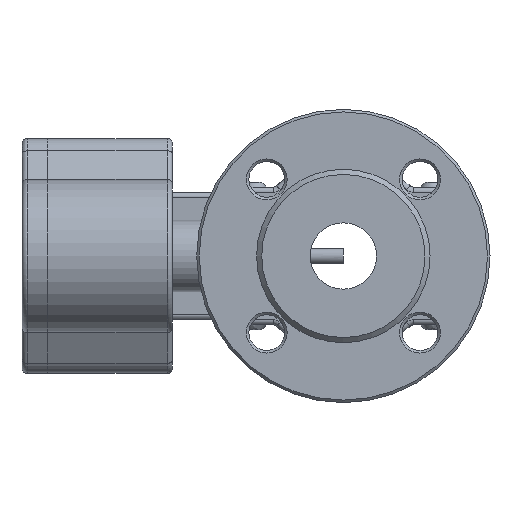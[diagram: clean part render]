
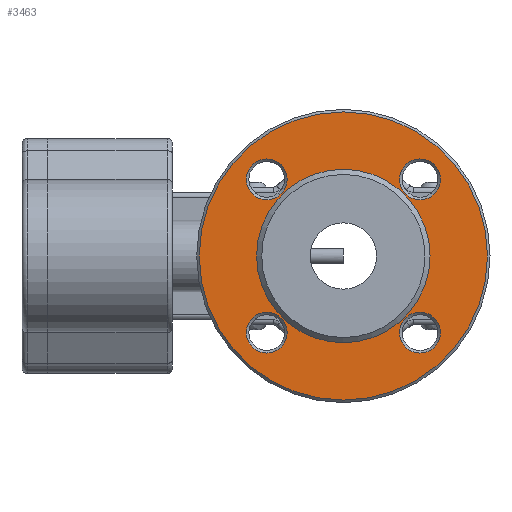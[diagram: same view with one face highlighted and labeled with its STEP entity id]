
A CAD part, left-side view. The second image highlights one B-rep face of the part: STEP entity #3463.
In plain terms, the highlighted planar face has unit normal (-1, 0, 0).
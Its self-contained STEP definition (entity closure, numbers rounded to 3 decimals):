
#3463=ADVANCED_FACE('',(#7015,#7017,#7019,#7021,#7023,#7025),#7027,.T.);
#7015=FACE_BOUND('',#7016,.T.);
#7016=EDGE_LOOP('',(#11565));
#7017=FACE_BOUND('',#7018,.T.);
#7018=EDGE_LOOP('',(#11566));
#7019=FACE_BOUND('',#7020,.T.);
#7020=EDGE_LOOP('',(#11567));
#7021=FACE_BOUND('',#7022,.T.);
#7022=EDGE_LOOP('',(#11568));
#7023=FACE_BOUND('',#7024,.T.);
#7024=EDGE_LOOP('',(#11569));
#7025=FACE_BOUND('',#7026,.T.);
#7026=EDGE_LOOP('',(#11570));
#7027=PLANE('',#7028);
#7028=AXIS2_PLACEMENT_3D('',#7029,#7030,#7031);
#7029=CARTESIAN_POINT('',(-98.,0.,0.));
#7030=DIRECTION('',(-1.,-0.,-0.));
#7031=DIRECTION('',(0.,1.,0.));
#11565=ORIENTED_EDGE('',*,*,#12960,.F.);
#11566=ORIENTED_EDGE('',*,*,#12961,.T.);
#11567=ORIENTED_EDGE('',*,*,#12962,.T.);
#11568=ORIENTED_EDGE('',*,*,#12886,.T.);
#11569=ORIENTED_EDGE('',*,*,#12963,.T.);
#11570=ORIENTED_EDGE('',*,*,#12964,.T.);
#12886=EDGE_CURVE('',#14749,#14749,#14750,.T.);
#12960=EDGE_CURVE('',#14873,#14873,#14874,.T.);
#12961=EDGE_CURVE('',#14875,#14875,#14876,.F.);
#12962=EDGE_CURVE('',#14877,#14877,#14878,.F.);
#12963=EDGE_CURVE('',#14879,#14879,#14880,.F.);
#12964=EDGE_CURVE('',#14881,#14881,#14882,.F.);
#14749=VERTEX_POINT('',#20098);
#14750=CIRCLE('',#20099,34.);
#14873=VERTEX_POINT('',#20420);
#14874=CIRCLE('',#20421,56.5);
#14875=VERTEX_POINT('',#20425);
#14876=CIRCLE('',#20426,8.);
#14877=VERTEX_POINT('',#20430);
#14878=CIRCLE('',#20431,8.);
#14879=VERTEX_POINT('',#20435);
#14880=CIRCLE('',#20436,8.);
#14881=VERTEX_POINT('',#20440);
#14882=CIRCLE('',#20441,8.);
#20098=CARTESIAN_POINT('',(-98.,34.,0.));
#20099=AXIS2_PLACEMENT_3D('',#20100,#20101,#20102);
#20100=CARTESIAN_POINT('',(-98.,0.,0.));
#20101=DIRECTION('',(1.,0.,0.));
#20102=DIRECTION('',(0.,1.,0.));
#20420=CARTESIAN_POINT('',(-98.,56.5,0.));
#20421=AXIS2_PLACEMENT_3D('',#20422,#20423,#20424);
#20422=CARTESIAN_POINT('',(-98.,0.,0.));
#20423=DIRECTION('',(1.,0.,0.));
#20424=DIRECTION('',(0.,1.,0.));
#20425=CARTESIAN_POINT('',(-98.,-30.052,22.052));
#20426=AXIS2_PLACEMENT_3D('',#20427,#20428,#20429);
#20427=CARTESIAN_POINT('',(-98.,-30.052,30.052));
#20428=DIRECTION('',(-1.,-0.,-0.));
#20429=DIRECTION('',(0.,0.,-1.));
#20430=CARTESIAN_POINT('',(-98.,30.052,-38.052));
#20431=AXIS2_PLACEMENT_3D('',#20432,#20433,#20434);
#20432=CARTESIAN_POINT('',(-98.,30.052,-30.052));
#20433=DIRECTION('',(-1.,-0.,-0.));
#20434=DIRECTION('',(0.,0.,-1.));
#20435=CARTESIAN_POINT('',(-98.,30.052,22.052));
#20436=AXIS2_PLACEMENT_3D('',#20437,#20438,#20439);
#20437=CARTESIAN_POINT('',(-98.,30.052,30.052));
#20438=DIRECTION('',(-1.,-0.,-0.));
#20439=DIRECTION('',(0.,0.,-1.));
#20440=CARTESIAN_POINT('',(-98.,-30.052,-38.052));
#20441=AXIS2_PLACEMENT_3D('',#20442,#20443,#20444);
#20442=CARTESIAN_POINT('',(-98.,-30.052,-30.052));
#20443=DIRECTION('',(-1.,-0.,-0.));
#20444=DIRECTION('',(0.,0.,-1.));
